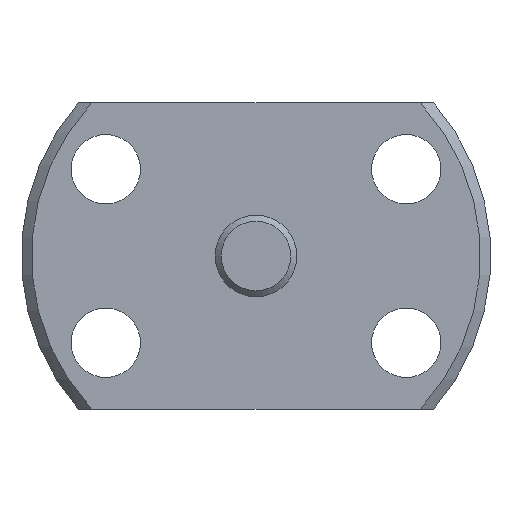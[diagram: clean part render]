
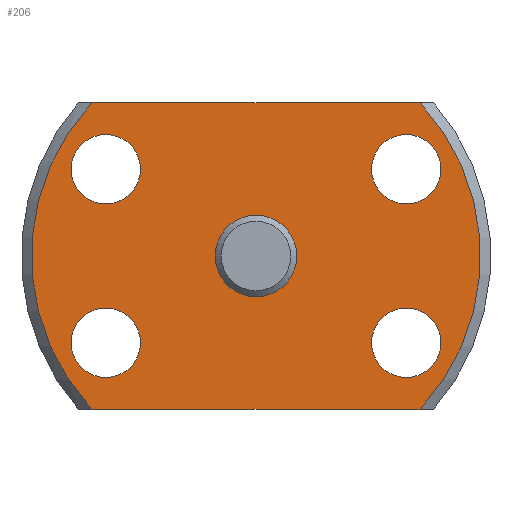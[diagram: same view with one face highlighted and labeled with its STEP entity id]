
A CAD part, left-side view. The second image highlights one B-rep face of the part: STEP entity #206.
In plain terms, the highlighted planar face has unit normal (-1, 0, 0).
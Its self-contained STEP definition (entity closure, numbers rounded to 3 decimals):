
#206 = ADVANCED_FACE( '', ( #315, #316, #317, #318, #319, #320 ), #321, .T. );
#315 = FACE_BOUND( '', #450, .T. );
#316 = FACE_OUTER_BOUND( '', #451, .T. );
#317 = FACE_BOUND( '', #452, .T. );
#318 = FACE_BOUND( '', #453, .T. );
#319 = FACE_BOUND( '', #454, .T. );
#320 = FACE_BOUND( '', #455, .T. );
#321 = PLANE( '', #456 );
#450 = EDGE_LOOP( '', ( #768 ) );
#451 = EDGE_LOOP( '', ( #769, #770, #771, #772 ) );
#452 = EDGE_LOOP( '', ( #773 ) );
#453 = EDGE_LOOP( '', ( #774 ) );
#454 = EDGE_LOOP( '', ( #775 ) );
#455 = EDGE_LOOP( '', ( #776 ) );
#456 = AXIS2_PLACEMENT_3D( '', #777, #778, #779 );
#768 = ORIENTED_EDGE( '', *, *, #998, .T. );
#769 = ORIENTED_EDGE( '', *, *, #976, .F. );
#770 = ORIENTED_EDGE( '', *, *, #995, .F. );
#771 = ORIENTED_EDGE( '', *, *, #999, .F. );
#772 = ORIENTED_EDGE( '', *, *, #1000, .F. );
#773 = ORIENTED_EDGE( '', *, *, #984, .T. );
#774 = ORIENTED_EDGE( '', *, *, #997, .T. );
#775 = ORIENTED_EDGE( '', *, *, #993, .T. );
#776 = ORIENTED_EDGE( '', *, *, #992, .T. );
#777 = CARTESIAN_POINT( '', ( 0., 11., 0. ) );
#778 = DIRECTION( '', ( -1., 0., 0. ) );
#779 = DIRECTION( '', ( 0., 0., 1. ) );
#976 = EDGE_CURVE( '', #1155, #1157, #1158, .T. );
#984 = EDGE_CURVE( '', #1171, #1171, #1172, .T. );
#992 = EDGE_CURVE( '', #1186, #1186, #1187, .T. );
#993 = EDGE_CURVE( '', #1188, #1188, #1189, .T. );
#995 = EDGE_CURVE( '', #1190, #1155, #1193, .T. );
#997 = EDGE_CURVE( '', #1195, #1195, #1196, .T. );
#998 = EDGE_CURVE( '', #1197, #1197, #1198, .T. );
#999 = EDGE_CURVE( '', #1199, #1190, #1200, .T. );
#1000 = EDGE_CURVE( '', #1157, #1199, #1201, .T. );
#1155 = VERTEX_POINT( '', #1445 );
#1157 = VERTEX_POINT( '', #1450 );
#1158 = LINE( '', #1451, #1452 );
#1171 = VERTEX_POINT( '', #1476 );
#1172 = CIRCLE( '', #1477, 1.7 );
#1186 = VERTEX_POINT( '', #1492 );
#1187 = CIRCLE( '', #1493, 1.7 );
#1188 = VERTEX_POINT( '', #1494 );
#1189 = CIRCLE( '', #1495, 1.7 );
#1190 = VERTEX_POINT( '', #1496 );
#1193 = CIRCLE( '', #1502, 11. );
#1195 = VERTEX_POINT( '', #1504 );
#1196 = CIRCLE( '', #1505, 1.7 );
#1197 = VERTEX_POINT( '', #1506 );
#1198 = CIRCLE( '', #1507, 2. );
#1199 = VERTEX_POINT( '', #1508 );
#1200 = LINE( '', #1509, #1510 );
#1201 = CIRCLE( '', #1511, 11. );
#1445 = CARTESIAN_POINT( '', ( 0., 8.047, 7.5 ) );
#1450 = CARTESIAN_POINT( '', ( 0., -8.047, 7.5 ) );
#1451 = CARTESIAN_POINT( '', ( 0., 11.5, 7.5 ) );
#1452 = VECTOR( '', #1683, 1000. );
#1476 = CARTESIAN_POINT( '', ( 0., 7.361, 2.55 ) );
#1477 = AXIS2_PLACEMENT_3D( '', #1692, #1693, #1694 );
#1492 = CARTESIAN_POINT( '', ( 0., 7.361, -5.95 ) );
#1493 = AXIS2_PLACEMENT_3D( '', #1714, #1715, #1716 );
#1494 = CARTESIAN_POINT( '', ( 0., -7.361, -5.95 ) );
#1495 = AXIS2_PLACEMENT_3D( '', #1717, #1718, #1719 );
#1496 = CARTESIAN_POINT( '', ( 0., 8.047, -7.5 ) );
#1502 = AXIS2_PLACEMENT_3D( '', #1720, #1721, #1722 );
#1504 = CARTESIAN_POINT( '', ( 0., -7.361, 2.55 ) );
#1505 = AXIS2_PLACEMENT_3D( '', #1726, #1727, #1728 );
#1506 = CARTESIAN_POINT( '', ( 0., 0., -2. ) );
#1507 = AXIS2_PLACEMENT_3D( '', #1729, #1730, #1731 );
#1508 = CARTESIAN_POINT( '', ( 0., -8.047, -7.5 ) );
#1509 = CARTESIAN_POINT( '', ( 0., -11.5, -7.5 ) );
#1510 = VECTOR( '', #1732, 1000. );
#1511 = AXIS2_PLACEMENT_3D( '', #1733, #1734, #1735 );
#1683 = DIRECTION( '', ( 0., -1., 0. ) );
#1692 = CARTESIAN_POINT( '', ( 0., 7.361, 4.25 ) );
#1693 = DIRECTION( '', ( 1., 0., 0. ) );
#1694 = DIRECTION( '', ( 0., 0., -1. ) );
#1714 = CARTESIAN_POINT( '', ( 0., 7.361, -4.25 ) );
#1715 = DIRECTION( '', ( 1., 0., 0. ) );
#1716 = DIRECTION( '', ( 0., 0., -1. ) );
#1717 = CARTESIAN_POINT( '', ( 0., -7.361, -4.25 ) );
#1718 = DIRECTION( '', ( 1., 0., 0. ) );
#1719 = DIRECTION( '', ( 0., 0., -1. ) );
#1720 = CARTESIAN_POINT( '', ( 0., 0., 0. ) );
#1721 = DIRECTION( '', ( 1., 0., 0. ) );
#1722 = DIRECTION( '', ( 0., 0., -1. ) );
#1726 = CARTESIAN_POINT( '', ( 0., -7.361, 4.25 ) );
#1727 = DIRECTION( '', ( 1., 0., 0. ) );
#1728 = DIRECTION( '', ( 0., 0., -1. ) );
#1729 = CARTESIAN_POINT( '', ( 0., 0., 0. ) );
#1730 = DIRECTION( '', ( 1., 0., 0. ) );
#1731 = DIRECTION( '', ( 0., 0., -1. ) );
#1732 = DIRECTION( '', ( 0., 1., 0. ) );
#1733 = CARTESIAN_POINT( '', ( 0., 0., 0. ) );
#1734 = DIRECTION( '', ( 1., 0., 0. ) );
#1735 = DIRECTION( '', ( 0., 0., -1. ) );
